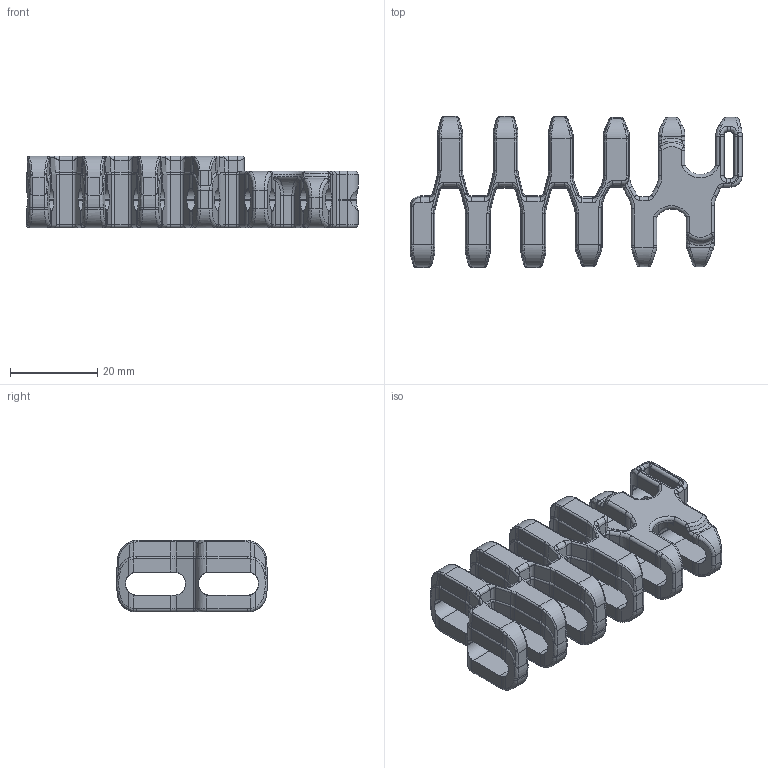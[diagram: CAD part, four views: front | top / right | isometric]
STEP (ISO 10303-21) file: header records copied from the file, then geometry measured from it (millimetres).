
FILE_DESCRIPTION((''),'2;1');
FILE_NAME('K59','2012-10-01T',('mth'),(''),'PRO/ENGINEER BY PARAMETRIC TECHNOLOGY CORPORATION, 2012230','PRO/ENGINEER BY PARAMETRIC TECHNOLOGY CORPORATION, 2012230','');
FILE_SCHEMA(('AUTOMOTIVE_DESIGN { 1 0 10303 214 1 1 1 1 }'));
Products named in the file (1): K59
Bounding box: 76.1 x 34.7 x 16.5 mm (x, y, z)
Volume: 11742.6 mm3; surface area: 10473.1 mm2
Topology: 1 solids, 1 shells, 1439 faces, 3756 edges, 2313 vertices
Faces by surface type: plane 598, cylinder 367, bspline 253, torus 156, cone 65
Entity records: 69493 total; most frequent: CARTESIAN_POINT 34115, ORIENTED_EDGE 7512, DIRECTION 6255, EDGE_CURVE 3756, VERTEX_POINT 2313, AXIS2_PLACEMENT_3D 2143, VECTOR 1969, LINE 1969
